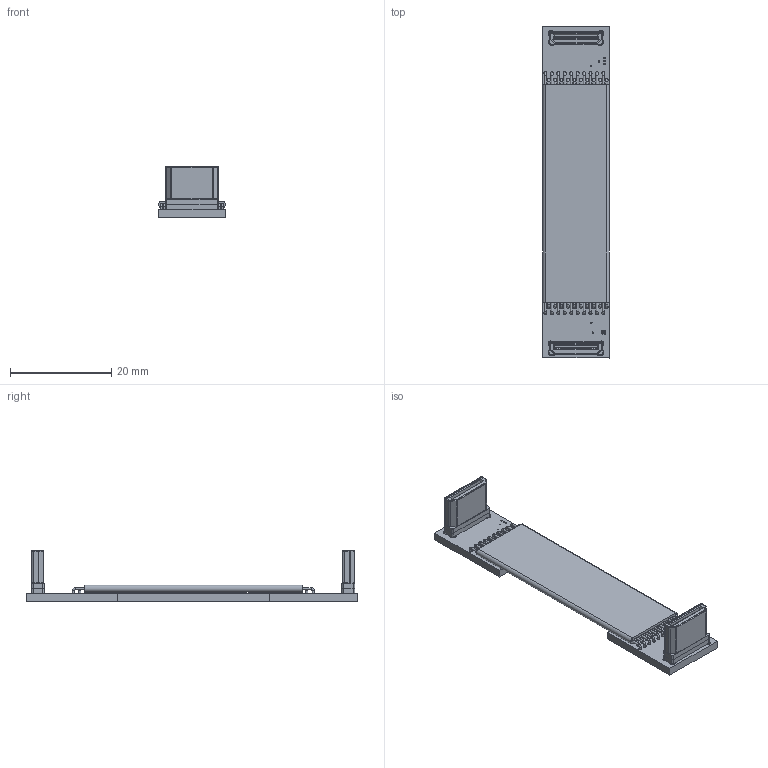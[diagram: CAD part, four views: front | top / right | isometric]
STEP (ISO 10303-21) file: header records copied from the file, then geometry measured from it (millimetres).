
FILE_DESCRIPTION(('Open CASCADE Model'),'2;1');
FILE_NAME('Open CASCADE Shape Model','2022-06-09T21:13:20',('Author'),( 'Open CASCADE'),'Open CASCADE STEP processor 6.8','Open CASCADE 6.8' ,'Unknown');
FILE_SCHEMA(('AUTOMOTIVE_DESIGN { 1 0 10303 214 1 1 1 1 }'));
Length unit declared in the file: millimetre
Products named in the file (49): PCB; Board; Open CASCADE STEP translator 6.8 13.1.1; _1; HDMI_type_C1; miniHDMI-p_RGB10275833; Open CASCADE STEP translator 6.8 13.3; Free-Models; cable20-A1A1
Assembly tree (52 placements, depth 3):
  PCB
    Board
      Open CASCADE STEP translator 6.8 13.1.1
    _1
      HDMI_type_C1
      miniHDMI-p_RGB10275833  x2
    Open CASCADE STEP translator 6.8 13.3
      miniHDMI-p_RGB10275833  x2
      HDMI_type_C1
    Free-Models
      cable20-A1A1
      cable20-A1A1
      cable20-A1A1
      cable20-A1A1
      cable20-A1A1
      cable20-A1A1
      cable20-A1A1
      cable20-A1A1
      cable20-A1A1
      cable20-A1A1
      cable20-A1A1
      cable20-A1A1
      cable20-A1A1
      cable20-A1A1
      cable20-A1A1
      cable20-A1A1
      cable20-A1A1
      cable20-A1A1
      cable20-A1A1
      cable20-A1A1
      cable20-A1A1
      cable20-A1A1
      cable20-A1A1
      cable20-A1A1
      cable20-A1A1
      cable20-A1A1
      cable20-A1A1
      cable20-A1A1
      cable20-A1A1
      cable20-A1A1
      cable20-A1A1
      cable20-A1A1
      cable20-A1A1
      cable20-A1A1
      cable20-A1A1
      cable20-A1A1
      cable20-A1A1
      cable20-A1A1
      cable20-A1A1
      cable20-A1A1
      cable20-A1A1
Bounding box: 13.35 x 65.5 x 10 mm (x, y, z)
Volume: 1738.5 mm3; surface area: 4839.3 mm2
Topology: 48 solids, 48 shells, 664 faces, 1606 edges, 1040 vertices
Faces by surface type: plane 350, cylinder 262, torus 52
Full cylindrical faces by diameter (mm): 0.254 x5, 0.304 x6, 0.4 x119, 0.6 x40, 1.1 x4, 1.4 x4
Entity records: 18354 total; most frequent: CARTESIAN_POINT 2662, DIRECTION 2458, ORIENTED_EDGE 2180, EDGE_CURVE 1090, AXIS2_PLACEMENT_3D 974, VERTEX_POINT 698, FACE_BOUND 680, EDGE_LOOP 680
